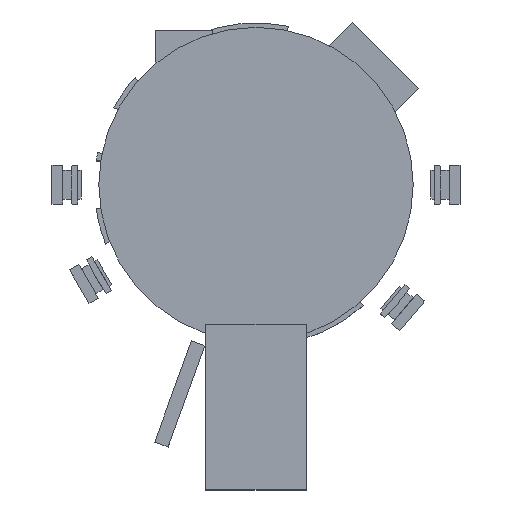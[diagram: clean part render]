
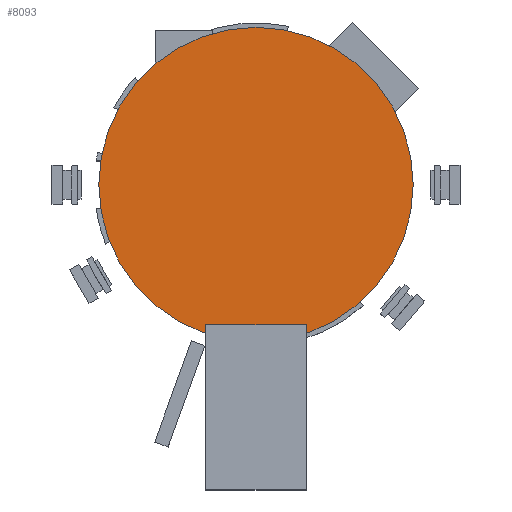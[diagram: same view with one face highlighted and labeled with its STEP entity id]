
A CAD part, top view. The second image highlights one B-rep face of the part: STEP entity #8093.
In plain terms, the highlighted planar face has unit normal (0, 0, 1).
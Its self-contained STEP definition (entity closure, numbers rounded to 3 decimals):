
#8008 = VERTEX_POINT('',#8009);
#8009 = CARTESIAN_POINT('',(21.88,0.,13.4));
#8016 = CYLINDRICAL_SURFACE('',#8017,21.88);
#8017 = AXIS2_PLACEMENT_3D('',#8018,#8019,#8020);
#8018 = CARTESIAN_POINT('',(0.,0.,13.3));
#8019 = DIRECTION('',(-0.,-0.,-1.));
#8020 = DIRECTION('',(1.,0.,0.));
#8035 = EDGE_CURVE('',#8008,#8008,#8036,.T.);
#8036 = SURFACE_CURVE('',#8037,(#8042,#8049),.PCURVE_S1.);
#8037 = CIRCLE('',#8038,21.88);
#8038 = AXIS2_PLACEMENT_3D('',#8039,#8040,#8041);
#8039 = CARTESIAN_POINT('',(0.,0.,13.4));
#8040 = DIRECTION('',(0.,0.,1.));
#8041 = DIRECTION('',(1.,0.,0.));
#8042 = PCURVE('',#8016,#8043);
#8043 = DEFINITIONAL_REPRESENTATION('',(#8044),#8048);
#8044 = LINE('',#8045,#8046);
#8045 = CARTESIAN_POINT('',(-0.,-0.1));
#8046 = VECTOR('',#8047,1.);
#8047 = DIRECTION('',(-1.,0.));
#8048 = ( GEOMETRIC_REPRESENTATION_CONTEXT(2) 
PARAMETRIC_REPRESENTATION_CONTEXT() REPRESENTATION_CONTEXT('2D SPACE',''
  ) );
#8049 = PCURVE('',#8050,#8055);
#8050 = PLANE('',#8051);
#8051 = AXIS2_PLACEMENT_3D('',#8052,#8053,#8054);
#8052 = CARTESIAN_POINT('',(0.,0.,13.4)
  );
#8053 = DIRECTION('',(0.,0.,1.));
#8054 = DIRECTION('',(1.,0.,-0.));
#8055 = DEFINITIONAL_REPRESENTATION('',(#8056),#8060);
#8056 = CIRCLE('',#8057,21.88);
#8057 = AXIS2_PLACEMENT_2D('',#8058,#8059);
#8058 = CARTESIAN_POINT('',(0.,0.));
#8059 = DIRECTION('',(1.,0.));
#8060 = ( GEOMETRIC_REPRESENTATION_CONTEXT(2) 
PARAMETRIC_REPRESENTATION_CONTEXT() REPRESENTATION_CONTEXT('2D SPACE',''
  ) );
#8093 = ADVANCED_FACE('',(#8094),#8050,.T.);
#8094 = FACE_BOUND('',#8095,.T.);
#8095 = EDGE_LOOP('',(#8096));
#8096 = ORIENTED_EDGE('',*,*,#8035,.T.);
